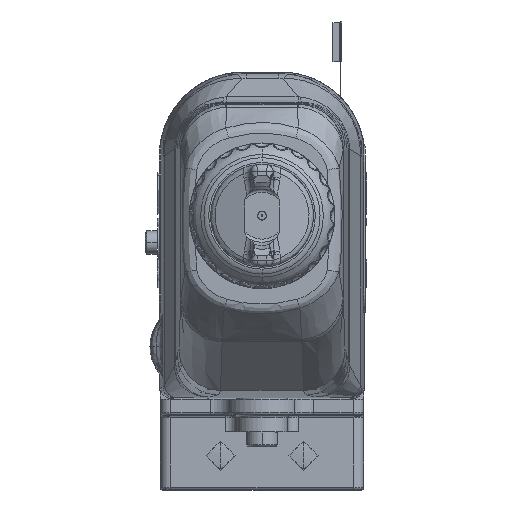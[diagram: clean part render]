
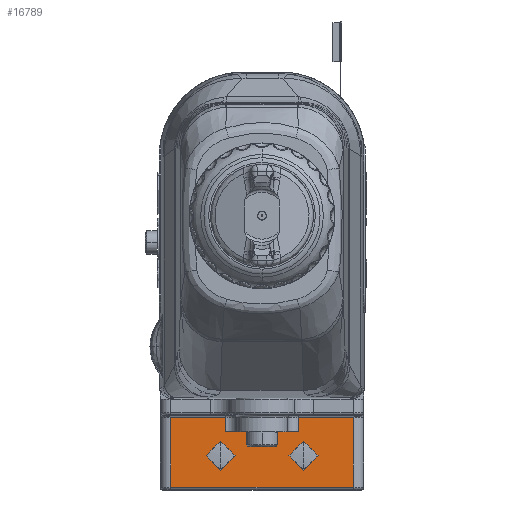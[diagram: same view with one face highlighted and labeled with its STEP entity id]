
A CAD part, top view. The second image highlights one B-rep face of the part: STEP entity #16789.
In plain terms, the highlighted planar face has unit normal (0, 0, 1).
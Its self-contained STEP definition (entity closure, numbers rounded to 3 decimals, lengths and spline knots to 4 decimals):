
#13376=DIRECTION('',(-1.,0.,0.));
#13377=VECTOR('',#13376,0.8729);
#13378=CARTESIAN_POINT('',(0.4364,-3.3,1.99));
#13379=LINE('',#13378,#13377);
#14541=DIRECTION('',(-1.,0.,0.));
#14542=VECTOR('',#14541,2.2);
#14543=CARTESIAN_POINT('',(1.1,-3.97,1.99));
#14544=LINE('',#14543,#14542);
#14545=DIRECTION('',(0.,1.,0.));
#14546=VECTOR('',#14545,0.84);
#14547=CARTESIAN_POINT('',(-1.1,-3.97,1.99));
#14548=LINE('',#14547,#14546);
#14549=DIRECTION('',(1.,0.,0.));
#14550=VECTOR('',#14549,0.6636);
#14551=CARTESIAN_POINT('',(-1.1,-3.13,1.99));
#14552=LINE('',#14551,#14550);
#14553=DIRECTION('',(0.,1.,0.));
#14554=VECTOR('',#14553,0.17);
#14555=CARTESIAN_POINT('',(-0.4364,-3.3,1.99));
#14556=LINE('',#14555,#14554);
#14557=DIRECTION('',(0.,1.,0.));
#14558=VECTOR('',#14557,0.17);
#14559=CARTESIAN_POINT('',(0.4364,-3.3,1.99));
#14560=LINE('',#14559,#14558);
#14561=DIRECTION('',(1.,0.,0.));
#14562=VECTOR('',#14561,0.6636);
#14563=CARTESIAN_POINT('',(0.4364,-3.13,1.99));
#14564=LINE('',#14563,#14562);
#14565=DIRECTION('',(0.,1.,0.));
#14566=VECTOR('',#14565,0.84);
#14567=CARTESIAN_POINT('',(1.1,-3.97,1.99));
#14568=LINE('',#14567,#14566);
#15485=CARTESIAN_POINT('',(-0.4364,-3.3,1.99));
#15486=VERTEX_POINT('',#15485);
#15487=CARTESIAN_POINT('',(0.4364,-3.3,1.99));
#15488=VERTEX_POINT('',#15487);
#15493=CARTESIAN_POINT('',(-1.1,-3.97,1.99));
#15495=VERTEX_POINT('',#15493);
#15499=CARTESIAN_POINT('',(1.1,-3.97,1.99));
#15500=VERTEX_POINT('',#15499);
#15545=CARTESIAN_POINT('',(-1.1,-3.13,1.99));
#15546=CARTESIAN_POINT('',(-0.4364,-3.13,1.99));
#15547=VERTEX_POINT('',#15545);
#15548=VERTEX_POINT('',#15546);
#15567=CARTESIAN_POINT('',(0.4364,-3.13,1.99));
#15568=VERTEX_POINT('',#15567);
#15571=CARTESIAN_POINT('',(1.1,-3.13,1.99));
#15572=VERTEX_POINT('',#15571);
#16767=CARTESIAN_POINT('',(-0.7771,-4.,1.99));
#16768=DIRECTION('',(0.,0.,-1.));
#16769=DIRECTION('',(1.,0.,0.));
#16770=AXIS2_PLACEMENT_3D('',#16767,#16768,#16769);
#16771=PLANE('',#16770);
#16773=ORIENTED_EDGE('',*,*,#16772,.T.);
#16775=ORIENTED_EDGE('',*,*,#16774,.T.);
#16777=ORIENTED_EDGE('',*,*,#16776,.T.);
#16779=ORIENTED_EDGE('',*,*,#16778,.F.);
#16780=ORIENTED_EDGE('',*,*,#16032,.F.);
#16782=ORIENTED_EDGE('',*,*,#16781,.T.);
#16784=ORIENTED_EDGE('',*,*,#16783,.T.);
#16786=ORIENTED_EDGE('',*,*,#16785,.F.);
#16787=EDGE_LOOP('',(#16773,#16775,#16777,#16779,#16780,#16782,#16784,#16786));
#16788=FACE_OUTER_BOUND('',#16787,.F.);
#16789=ADVANCED_FACE('',(#16788),#16771,.F.);
#16032=EDGE_CURVE('',#15488,#15486,#13379,.T.);
#16772=EDGE_CURVE('',#15500,#15495,#14544,.T.);
#16774=EDGE_CURVE('',#15495,#15547,#14548,.T.);
#16776=EDGE_CURVE('',#15547,#15548,#14552,.T.);
#16778=EDGE_CURVE('',#15486,#15548,#14556,.T.);
#16781=EDGE_CURVE('',#15488,#15568,#14560,.T.);
#16783=EDGE_CURVE('',#15568,#15572,#14564,.T.);
#16785=EDGE_CURVE('',#15500,#15572,#14568,.T.);
